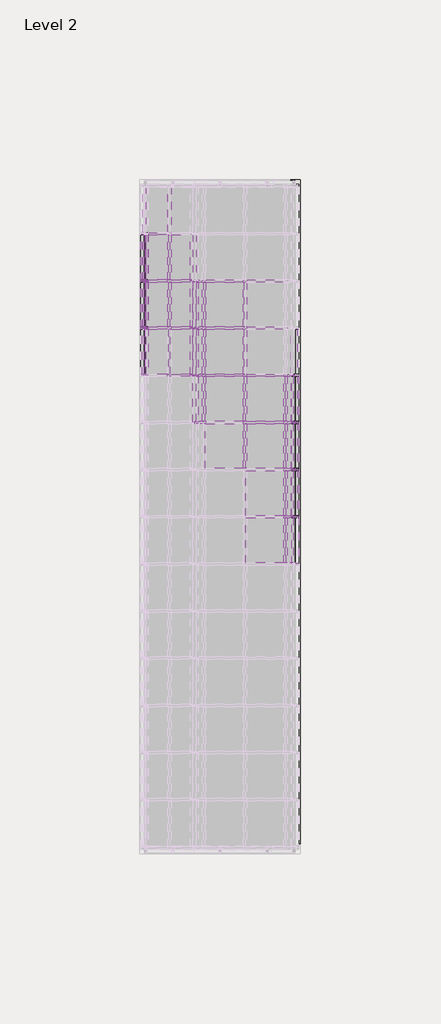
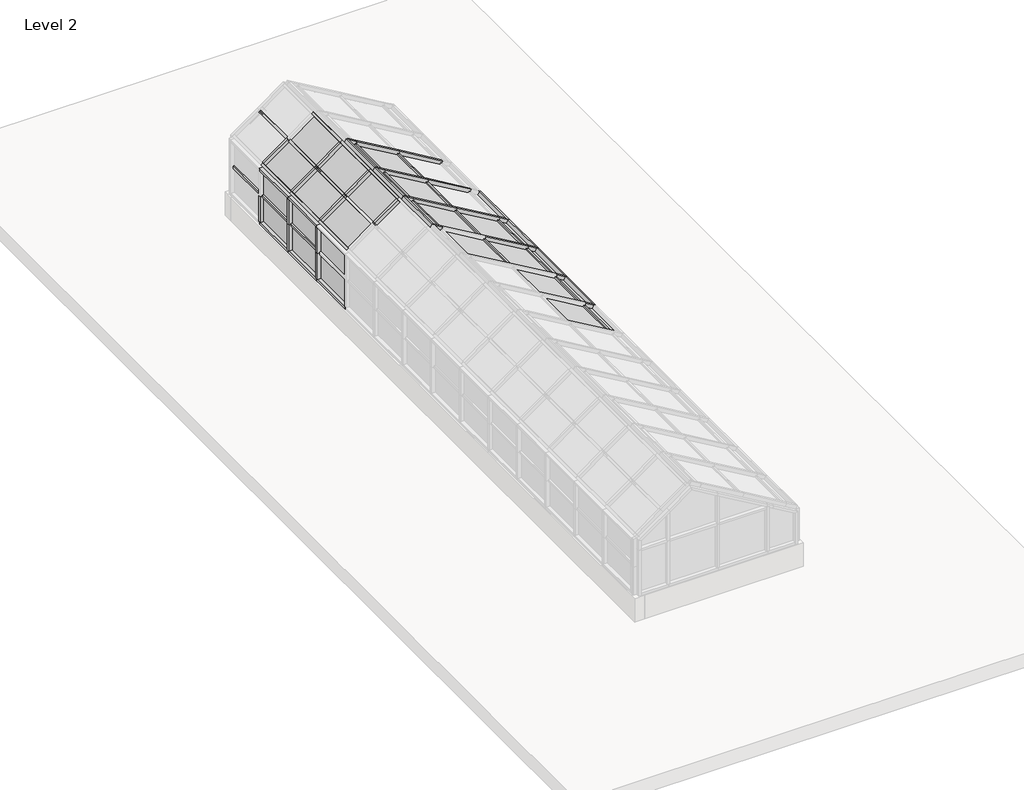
# One storey, part 4 of 5: 73 members, 31 plates, 1 wall.
"""IFC4 building model written with IfcOpenShell, lengths in millimetres."""

from ifc_helpers import new_model, si_unit, origin, place, context, project, spatial, faceted_brep, transform, mapped, element, save
from components import rectangular_mullion_50mm_x_150mm_bbc1c4ea, rectangular_mullion_50mm_x_150mm_eeb88b28, rectangular_mullion_50mm_x_150mm_a3f7cd42, rectangular_mullion_50mm_x_150mm_b93c35cb, rectangular_mullion_50mm_x_150mm_5b0837ce, rectangular_mullion_50mm_x_150mm_ae680e05, rectangular_mullion_50mm_x_65mm_20714c67, rectangular_mullion_50mm_x_65mm_31c1307f, system_panel_glazed_870feb4d, system_panel_glazed_ce9ce1f6, system_panel_glazed_b73f3a15, system_panel_glazed_e5572be6, system_panel_glazed_8ed7f146

model = new_model("IFC4")

# Units and contexts
model_context = context("Model", 3, world=origin())
ifc_project = project(units=[si_unit("LENGTHUNIT", "METRE", prefix="MILLI")], contexts=[model_context])

# Site, building, storey
site = spatial("IfcSite", under=ifc_project)
building = spatial("IfcBuilding", under=site)
storey = spatial("IfcBuildingStorey", under=building, Name="Level 2", Elevation=4000.0)

# Members
placement = place(None, origin())
rectangular_mullion_50mm_x_150mm_shape = rectangular_mullion_50mm_x_150mm_bbc1c4ea(model_context)
element("IfcMember", 1, ObjectType="Rectangular Mullion : 50mm x 150mm", at=placement, inside=storey, context=model_context, shape_type="MappedRepresentation", body=[
    mapped(rectangular_mullion_50mm_x_150mm_shape, transform((3425.8229716, 2583.816466, 6125.9168295), x_axis=(0.0, -1.0, 0.0), y_axis=(0.5073040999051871, 0.0, 0.861767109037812), z_axis=(-0.861767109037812, 0.0, 0.5073040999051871))),
])
element("IfcMember", 2, ObjectType="Rectangular Mullion : 50mm x 150mm", at=placement, inside=storey, context=model_context, shape_type="MappedRepresentation", body=[
    mapped(rectangular_mullion_50mm_x_150mm_shape, transform((2564.0558626, 3583.816466, 6633.2209294), x_axis=(0.0, -1.0, 0.0), y_axis=(0.5073040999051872, 0.0, 0.8617671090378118), z_axis=(-0.8617671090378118, 0.0, 0.5073040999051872))),
])
element("IfcMember", 3, ObjectType="Rectangular Mullion : 50mm x 150mm", at=placement, inside=storey, context=model_context, shape_type="MappedRepresentation", body=[
    mapped(rectangular_mullion_50mm_x_150mm_shape, transform((3425.8229716, 3583.816466, 6125.9168295), x_axis=(0.0, -1.0, 0.0), y_axis=(0.507304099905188, 0.0, 0.8617671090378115), z_axis=(-0.8617671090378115, 0.0, 0.507304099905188))),
])
element("IfcMember", 4, ObjectType="Rectangular Mullion : 50mm x 150mm", at=placement, inside=storey, context=model_context, shape_type="MappedRepresentation", body=[
    mapped(rectangular_mullion_50mm_x_150mm_shape, transform((2564.0558626, 4583.816466, 6633.2209294), x_axis=(0.0, -1.0, 0.0), y_axis=(0.507304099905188, 0.0, 0.8617671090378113), z_axis=(-0.8617671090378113, 0.0, 0.507304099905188))),
])
element("IfcMember", 5, ObjectType="Rectangular Mullion : 50mm x 150mm", at=placement, inside=storey, context=model_context, shape_type="MappedRepresentation", body=[
    mapped(rectangular_mullion_50mm_x_150mm_shape, transform((3425.8229716, 4583.816466, 6125.9168295), x_axis=(0.0, -1.0, 0.0), y_axis=(0.5073040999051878, 0.0, 0.8617671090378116), z_axis=(-0.8617671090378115, 0.0, 0.5073040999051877))),
])
element("IfcMember", 6, ObjectType="Rectangular Mullion : 50mm x 150mm", at=placement, inside=storey, context=model_context, shape_type="MappedRepresentation", body=[
    mapped(rectangular_mullion_50mm_x_150mm_shape, transform((2564.0558626, 5583.816466, 6633.2209294), x_axis=(0.0, -1.0, 0.0), y_axis=(0.5073040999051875, 0.0, 0.8617671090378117), z_axis=(-0.8617671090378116, 0.0, 0.5073040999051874))),
])
element("IfcMember", 7, ObjectType="Rectangular Mullion : 50mm x 150mm", at=placement, inside=storey, context=model_context, shape_type="MappedRepresentation", body=[
    mapped(rectangular_mullion_50mm_x_150mm_shape, transform((3425.8229716, 5583.816466, 6125.9168295), x_axis=(0.0, -1.0, 0.0), y_axis=(0.5073040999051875, 0.0, 0.8617671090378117), z_axis=(-0.8617671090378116, 0.0, 0.5073040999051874))),
])
rectangular_mullion_50mm_x_150mm_2_shape = rectangular_mullion_50mm_x_150mm_eeb88b28(model_context)
element("IfcMember", 8, ObjectType="Rectangular Mullion : 50mm x 150mm", at=placement, inside=storey, context=model_context, shape_type="MappedRepresentation", body=[
    mapped(rectangular_mullion_50mm_x_150mm_2_shape, transform((1296.0159363, 6583.816466, 5995.9168295), x_axis=(-0.8125956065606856, 0.0, -0.5828279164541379), y_axis=(-0.5828279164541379, 0.0, 0.8125956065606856), z_axis=(0.0, 1.0, 0.0))),
])
element("IfcMember", 9, ObjectType="Rectangular Mullion : 50mm x 150mm", at=placement, inside=storey, context=model_context, shape_type="MappedRepresentation", body=[
    mapped(rectangular_mullion_50mm_x_150mm_2_shape, transform((1296.0159363, 5583.816466, 5995.9168295), x_axis=(-0.8125956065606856, 0.0, -0.5828279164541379), y_axis=(-0.5828279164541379, 0.0, 0.8125956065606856), z_axis=(0.0, 1.0, 0.0))),
])
element("IfcMember", 10, ObjectType="Rectangular Mullion : 50mm x 150mm", at=placement, inside=storey, context=model_context, shape_type="MappedRepresentation", body=[
    mapped(rectangular_mullion_50mm_x_150mm_2_shape, transform((1296.0159363, 4583.816466, 5995.9168295), x_axis=(-0.8125956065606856, 0.0, -0.5828279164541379), y_axis=(-0.5828279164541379, 0.0, 0.8125956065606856), z_axis=(0.0, 1.0, 0.0))),
])
element("IfcMember", 11, ObjectType="Rectangular Mullion : 50mm x 150mm", at=placement, inside=storey, context=model_context, shape_type="MappedRepresentation", body=[
    mapped(rectangular_mullion_50mm_x_150mm_2_shape, transform((1296.0159363, 6583.816466, 4800.0), x_axis=(0.0, 0.0, -1.0), y_axis=(-1.0, 0.0, 0.0), z_axis=(0.0, 1.0, 0.0))),
])
element("IfcMember", 12, ObjectType="Rectangular Mullion : 50mm x 150mm", at=placement, inside=storey, context=model_context, shape_type="MappedRepresentation", body=[
    mapped(rectangular_mullion_50mm_x_150mm_2_shape, transform((1296.0159363, 4583.816466, 4800.0), x_axis=(0.0, 0.0, -1.0), y_axis=(-1.0, 0.0, 0.0), z_axis=(0.0, 1.0, 0.0))),
])
element("IfcMember", 13, ObjectType="Rectangular Mullion : 50mm x 150mm", at=placement, inside=storey, context=model_context, shape_type="MappedRepresentation", body=[
    mapped(rectangular_mullion_50mm_x_150mm_2_shape, transform((1296.0159363, 5583.816466, 4800.0), x_axis=(0.0, 0.0, -1.0), y_axis=(-1.0, 0.0, 0.0), z_axis=(0.0, 1.0, 0.0))),
])
element("IfcMember", 14, ObjectType="Rectangular Mullion : 50mm x 150mm", at=placement, inside=storey, context=model_context, shape_type="MappedRepresentation", body=[
    mapped(rectangular_mullion_50mm_x_150mm_2_shape, transform((4496.0159363, 3583.816466, 5495.9168295), x_axis=(0.8617671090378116, 0.0, -0.5073040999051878), y_axis=(0.5073040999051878, 0.0, 0.8617671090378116), z_axis=(0.0, -1.0, 0.0))),
])
element("IfcMember", 15, ObjectType="Rectangular Mullion : 50mm x 150mm", at=placement, inside=storey, context=model_context, shape_type="MappedRepresentation", body=[
    mapped(rectangular_mullion_50mm_x_150mm_2_shape, transform((4496.0159363, 2583.816466, 5495.9168295), x_axis=(0.8617671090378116, 0.0, -0.5073040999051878), y_axis=(0.5073040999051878, 0.0, 0.8617671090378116), z_axis=(0.0, -1.0, 0.0))),
])
element("IfcMember", 16, ObjectType="Rectangular Mullion : 50mm x 150mm", at=placement, inside=storey, context=model_context, shape_type="MappedRepresentation", body=[
    mapped(rectangular_mullion_50mm_x_150mm_2_shape, transform((4496.0159363, 1583.816466, 5495.9168295), x_axis=(0.8617671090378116, 0.0, -0.5073040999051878), y_axis=(0.5073040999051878, 0.0, 0.8617671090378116), z_axis=(0.0, -1.0, 0.0))),
])
element("IfcMember", 17, ObjectType="Rectangular Mullion : 50mm x 150mm", at=placement, inside=storey, context=model_context, shape_type="MappedRepresentation", body=[
    mapped(rectangular_mullion_50mm_x_150mm_2_shape, transform((4496.0159363, 583.816466, 5495.9168295), x_axis=(0.8617671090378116, 0.0, -0.5073040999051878), y_axis=(0.5073040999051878, 0.0, 0.8617671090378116), z_axis=(0.0, -1.0, 0.0))),
])
element("IfcMember", 18, ObjectType="Rectangular Mullion : 50mm x 150mm", at=placement, inside=storey, context=model_context, shape_type="MappedRepresentation", body=[
    mapped(rectangular_mullion_50mm_x_150mm_2_shape, transform((4496.0159363, 3583.816466, 4800.0), x_axis=(0.0, 0.0, -1.0), y_axis=(1.0, 0.0, 0.0), z_axis=(0.0, -1.0, 0.0))),
])
element("IfcMember", 19, ObjectType="Rectangular Mullion : 50mm x 150mm", at=placement, inside=storey, context=model_context, shape_type="MappedRepresentation", body=[
    mapped(rectangular_mullion_50mm_x_150mm_2_shape, transform((4496.0159363, 2583.816466, 4800.0), x_axis=(0.0, 0.0, -1.0), y_axis=(1.0, 0.0, 0.0), z_axis=(0.0, -1.0, 0.0))),
])
element("IfcMember", 20, ObjectType="Rectangular Mullion : 50mm x 150mm", at=placement, inside=storey, context=model_context, shape_type="MappedRepresentation", body=[
    mapped(rectangular_mullion_50mm_x_150mm_2_shape, transform((4496.0159363, 1583.816466, 4800.0), x_axis=(0.0, 0.0, -1.0), y_axis=(1.0, 0.0, 0.0), z_axis=(0.0, -1.0, 0.0))),
])
element("IfcMember", 21, ObjectType="Rectangular Mullion : 50mm x 150mm", at=placement, inside=storey, context=model_context, shape_type="MappedRepresentation", body=[
    mapped(rectangular_mullion_50mm_x_150mm_2_shape, transform((4496.0159363, 583.816466, 4800.0), x_axis=(0.0, 0.0, -1.0), y_axis=(1.0, 0.0, 0.0), z_axis=(0.0, -1.0, 0.0))),
])
element("IfcMember", 22, ObjectType="Rectangular Mullion : 50mm x 150mm", at=placement, inside=storey, context=model_context, shape_type="MappedRepresentation", body=[
    mapped(rectangular_mullion_50mm_x_150mm_2_shape, transform((2355.6300069, 5583.816466, 6755.9168295), x_axis=(0.8125956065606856, 0.0, 0.5828279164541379), y_axis=(-0.5828279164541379, 0.0, 0.8125956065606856), z_axis=(0.0, -1.0, 0.0))),
])
element("IfcMember", 23, ObjectType="Rectangular Mullion : 50mm x 150mm", at=placement, inside=storey, context=model_context, shape_type="MappedRepresentation", body=[
    mapped(rectangular_mullion_50mm_x_150mm_2_shape, transform((2355.6300069, 4583.816466, 6755.9168295), x_axis=(0.8125956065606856, 0.0, 0.5828279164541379), y_axis=(-0.5828279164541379, 0.0, 0.8125956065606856), z_axis=(0.0, -1.0, 0.0))),
])
element("IfcMember", 24, ObjectType="Rectangular Mullion : 50mm x 150mm", at=placement, inside=storey, context=model_context, shape_type="MappedRepresentation", body=[
    mapped(rectangular_mullion_50mm_x_150mm_2_shape, transform((2355.6300069, 3583.816466, 6755.9168295), x_axis=(0.8125956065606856, 0.0, 0.5828279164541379), y_axis=(-0.5828279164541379, 0.0, 0.8125956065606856), z_axis=(0.0, -1.0, 0.0))),
])
element("IfcMember", 25, ObjectType="Rectangular Mullion : 50mm x 150mm", at=placement, inside=storey, context=model_context, shape_type="MappedRepresentation", body=[
    mapped(rectangular_mullion_50mm_x_150mm_2_shape, transform((1296.0159363, 4583.816466, 5995.9168295), x_axis=(0.0, 0.0, 1.0), y_axis=(-1.0, 0.0, 0.0), z_axis=(0.0, -1.0, 0.0))),
])
element("IfcMember", 26, ObjectType="Rectangular Mullion : 50mm x 150mm", at=placement, inside=storey, context=model_context, shape_type="MappedRepresentation", body=[
    mapped(rectangular_mullion_50mm_x_150mm_2_shape, transform((1296.0159363, 5583.816466, 5995.9168295), x_axis=(0.0, 0.0, 1.0), y_axis=(-1.0, 0.0, 0.0), z_axis=(0.0, -1.0, 0.0))),
])
element("IfcMember", 27, ObjectType="Rectangular Mullion : 50mm x 150mm", at=placement, inside=storey, context=model_context, shape_type="MappedRepresentation", body=[
    mapped(rectangular_mullion_50mm_x_150mm_2_shape, transform((2355.6300069, 5583.816466, 6755.9168295), x_axis=(-0.8617671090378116, 0.0, 0.5073040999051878), y_axis=(0.5073040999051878, 0.0, 0.8617671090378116), z_axis=(0.0, 1.0, 0.0))),
])
element("IfcMember", 28, ObjectType="Rectangular Mullion : 50mm x 150mm", at=placement, inside=storey, context=model_context, shape_type="MappedRepresentation", body=[
    mapped(rectangular_mullion_50mm_x_150mm_2_shape, transform((2355.6300069, 4583.816466, 6755.9168295), x_axis=(-0.8617671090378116, 0.0, 0.5073040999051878), y_axis=(0.5073040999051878, 0.0, 0.8617671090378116), z_axis=(0.0, 1.0, 0.0))),
])
element("IfcMember", 29, ObjectType="Rectangular Mullion : 50mm x 150mm", at=placement, inside=storey, context=model_context, shape_type="MappedRepresentation", body=[
    mapped(rectangular_mullion_50mm_x_150mm_2_shape, transform((2355.6300069, 3583.816466, 6755.9168295), x_axis=(-0.8617671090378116, 0.0, 0.5073040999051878), y_axis=(0.5073040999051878, 0.0, 0.8617671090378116), z_axis=(0.0, 1.0, 0.0))),
])
element("IfcMember", 30, ObjectType="Rectangular Mullion : 50mm x 150mm", at=placement, inside=storey, context=model_context, shape_type="MappedRepresentation", body=[
    mapped(rectangular_mullion_50mm_x_150mm_2_shape, transform((4496.0159363, 3583.816466, 5495.9168295), x_axis=(0.0, 0.0, 1.0), y_axis=(1.0, 0.0, 0.0), z_axis=(0.0, 1.0, 0.0))),
])
element("IfcMember", 31, ObjectType="Rectangular Mullion : 50mm x 150mm", at=placement, inside=storey, context=model_context, shape_type="MappedRepresentation", body=[
    mapped(rectangular_mullion_50mm_x_150mm_2_shape, transform((4496.0159363, 583.816466, 5495.9168295), x_axis=(0.0, 0.0, 1.0), y_axis=(1.0, 0.0, 0.0), z_axis=(0.0, 1.0, 0.0))),
])
element("IfcMember", 32, ObjectType="Rectangular Mullion : 50mm x 150mm", at=placement, inside=storey, context=model_context, shape_type="MappedRepresentation", body=[
    mapped(rectangular_mullion_50mm_x_150mm_2_shape, transform((4496.0159363, 2583.816466, 5495.9168295), x_axis=(0.0, 0.0, 1.0), y_axis=(1.0, 0.0, 0.0), z_axis=(0.0, 1.0, 0.0))),
])
element("IfcMember", 33, ObjectType="Rectangular Mullion : 50mm x 150mm", at=placement, inside=storey, context=model_context, shape_type="MappedRepresentation", body=[
    mapped(rectangular_mullion_50mm_x_150mm_2_shape, transform((4496.0159363, 1583.816466, 5495.9168295), x_axis=(0.0, 0.0, 1.0), y_axis=(1.0, 0.0, 0.0), z_axis=(0.0, 1.0, 0.0))),
])
rectangular_mullion_50mm_x_150mm_3_shape = rectangular_mullion_50mm_x_150mm_a3f7cd42(model_context)
element("IfcMember", 34, ObjectType="Rectangular Mullion : 50mm x 150mm", at=placement, inside=storey, context=model_context, shape_type="MappedRepresentation", body=[
    mapped(rectangular_mullion_50mm_x_150mm_3_shape, transform((2315.0002265, 3583.816466, 6726.7754337), x_axis=(0.0, 1.0, 0.0), y_axis=(-0.5828279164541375, 0.0, 0.812595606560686), z_axis=(0.8125956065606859, 0.0, 0.5828279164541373))),
])
element("IfcMember", 35, ObjectType="Rectangular Mullion : 50mm x 150mm", at=placement, inside=storey, context=model_context, shape_type="MappedRepresentation", body=[
    mapped(rectangular_mullion_50mm_x_150mm_3_shape, transform((2315.0002265, 4583.816466, 6726.7754337), x_axis=(0.0, 1.0, 0.0), y_axis=(-0.582827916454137, 0.0, 0.8125956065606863), z_axis=(0.8125956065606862, 0.0, 0.5828279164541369))),
])
element("IfcMember", 36, ObjectType="Rectangular Mullion : 50mm x 150mm", at=placement, inside=storey, context=model_context, shape_type="MappedRepresentation", body=[
    mapped(rectangular_mullion_50mm_x_150mm_3_shape, transform((2315.0002265, 5583.816466, 6726.7754337), x_axis=(0.0, 1.0, 0.0), y_axis=(-0.5828279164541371, 0.0, 0.8125956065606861), z_axis=(0.8125956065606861, 0.0, 0.5828279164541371))),
])
element("IfcMember", 37, ObjectType="Rectangular Mullion : 50mm x 150mm", at=placement, inside=storey, context=model_context, shape_type="MappedRepresentation", body=[
    mapped(rectangular_mullion_50mm_x_150mm_3_shape, transform((1825.8229716, 6583.816466, 6375.9168295), x_axis=(0.0, 1.0, 0.0), y_axis=(-0.5828279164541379, 0.0, 0.8125956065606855), z_axis=(0.8125956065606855, 0.0, 0.5828279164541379))),
])
element("IfcMember", 38, ObjectType="Rectangular Mullion : 50mm x 150mm", at=placement, inside=storey, context=model_context, shape_type="MappedRepresentation", body=[
    mapped(rectangular_mullion_50mm_x_150mm_3_shape, transform((1825.8229716, 5583.816466, 6375.9168295), x_axis=(0.0, 1.0, 0.0), y_axis=(-0.5828279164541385, 0.0, 0.8125956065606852), z_axis=(0.8125956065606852, 0.0, 0.5828279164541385))),
])
element("IfcMember", 39, ObjectType="Rectangular Mullion : 50mm x 150mm", at=placement, inside=storey, context=model_context, shape_type="MappedRepresentation", body=[
    mapped(rectangular_mullion_50mm_x_150mm_3_shape, transform((1825.8229716, 4583.816466, 6375.9168295), x_axis=(0.0, 1.0, 0.0), y_axis=(-0.582827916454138, 0.0, 0.8125956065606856), z_axis=(0.8125956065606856, 0.0, 0.582827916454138))),
])
rectangular_mullion_50mm_x_150mm_4_shape = rectangular_mullion_50mm_x_150mm_b93c35cb(model_context)
element("IfcMember", 40, ObjectType="Rectangular Mullion : 50mm x 150mm", at=placement, inside=storey, context=model_context, shape_type="MappedRepresentation", body=[
    mapped(rectangular_mullion_50mm_x_150mm_4_shape, transform((1296.0159363, 6583.816466, 5397.9584148), x_axis=(0.0, 1.0, 0.0), y_axis=(-1.0, 0.0, 0.0), z_axis=(0.0, 0.0, 1.0))),
])
element("IfcMember", 41, ObjectType="Rectangular Mullion : 50mm x 150mm", at=placement, inside=storey, context=model_context, shape_type="MappedRepresentation", body=[
    mapped(rectangular_mullion_50mm_x_150mm_4_shape, transform((1296.0159363, 5583.816466, 5397.9584148), x_axis=(0.0, 1.0, 0.0), y_axis=(-1.0, 0.0, 0.0), z_axis=(0.0, 0.0, 1.0))),
])
element("IfcMember", 42, ObjectType="Rectangular Mullion : 50mm x 150mm", at=placement, inside=storey, context=model_context, shape_type="MappedRepresentation", body=[
    mapped(rectangular_mullion_50mm_x_150mm_4_shape, transform((1296.0159363, 4583.816466, 5397.9584148), x_axis=(0.0, 1.0, 0.0), y_axis=(-1.0, 0.0, 0.0), z_axis=(0.0, 0.0, 1.0))),
])
element("IfcMember", 43, ObjectType="Rectangular Mullion : 50mm x 150mm", at=placement, inside=storey, context=model_context, shape_type="MappedRepresentation", body=[
    mapped(rectangular_mullion_50mm_x_150mm_4_shape, transform((1296.0159363, 4583.816466, 5945.9168295), x_axis=(0.0, 1.0, 0.0), y_axis=(-1.0, 0.0, 0.0), z_axis=(0.0, 0.0, 1.0))),
])
element("IfcMember", 44, ObjectType="Rectangular Mullion : 50mm x 150mm", at=placement, inside=storey, context=model_context, shape_type="MappedRepresentation", body=[
    mapped(rectangular_mullion_50mm_x_150mm_4_shape, transform((1296.0159363, 5583.816466, 5945.9168295), x_axis=(0.0, 1.0, 0.0), y_axis=(-1.0, 0.0, 0.0), z_axis=(0.0, 0.0, 1.0))),
])
rectangular_mullion_50mm_x_150mm_5_shape = rectangular_mullion_50mm_x_150mm_5b0837ce(model_context)
element("IfcMember", 45, ObjectType="Rectangular Mullion : 50mm x 150mm", at=placement, inside=storey, context=model_context, shape_type="MappedRepresentation", body=[
    mapped(rectangular_mullion_50mm_x_150mm_5_shape, transform((2398.7183623, 2583.816466, 6730.5516245), x_axis=(0.0, -1.0, 0.0), y_axis=(0.5073040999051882, 0.0, 0.8617671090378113), z_axis=(-0.8617671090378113, 0.0, 0.5073040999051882))),
])
element("IfcMember", 46, ObjectType="Rectangular Mullion : 50mm x 150mm", at=placement, inside=storey, context=model_context, shape_type="MappedRepresentation", body=[
    mapped(rectangular_mullion_50mm_x_150mm_5_shape, transform((2398.7183623, 3583.816466, 6730.5516245), x_axis=(0.0, -1.0, 0.0), y_axis=(0.5073040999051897, 0.0, 0.8617671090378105), z_axis=(-0.8617671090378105, 0.0, 0.5073040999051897))),
])
element("IfcMember", 47, ObjectType="Rectangular Mullion : 50mm x 150mm", at=placement, inside=storey, context=model_context, shape_type="MappedRepresentation", body=[
    mapped(rectangular_mullion_50mm_x_150mm_5_shape, transform((2398.7183623, 5583.816466, 6730.5516245), x_axis=(0.0, -1.0, 0.0), y_axis=(0.5073040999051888, 0.0, 0.8617671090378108), z_axis=(-0.8617671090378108, 0.0, 0.5073040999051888))),
])
element("IfcMember", 48, ObjectType="Rectangular Mullion : 50mm x 150mm", at=placement, inside=storey, context=model_context, shape_type="MappedRepresentation", body=[
    mapped(rectangular_mullion_50mm_x_150mm_5_shape, transform((2398.7183623, 4583.816466, 6730.5516245), x_axis=(0.0, -1.0, 0.0), y_axis=(0.5073040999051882, 0.0, 0.8617671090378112), z_axis=(-0.8617671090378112, 0.0, 0.5073040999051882))),
])
element("IfcMember", 49, ObjectType="Rectangular Mullion : 50mm x 150mm", at=placement, inside=storey, context=model_context, shape_type="MappedRepresentation", body=[
    mapped(rectangular_mullion_50mm_x_150mm_5_shape, transform((4287.5900806, 583.816466, 5618.6127296), x_axis=(0.0, -1.0, 0.0), y_axis=(0.5073040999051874, 0.0, 0.8617671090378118), z_axis=(-0.8617671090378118, 0.0, 0.5073040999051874))),
])
element("IfcMember", 50, ObjectType="Rectangular Mullion : 50mm x 150mm", at=placement, inside=storey, context=model_context, shape_type="MappedRepresentation", body=[
    mapped(rectangular_mullion_50mm_x_150mm_5_shape, transform((4287.5900806, 1583.816466, 5618.6127296), x_axis=(0.0, -1.0, 0.0), y_axis=(0.5073040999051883, 0.0, 0.8617671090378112), z_axis=(-0.8617671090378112, 0.0, 0.5073040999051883))),
])
element("IfcMember", 51, ObjectType="Rectangular Mullion : 50mm x 150mm", at=placement, inside=storey, context=model_context, shape_type="MappedRepresentation", body=[
    mapped(rectangular_mullion_50mm_x_150mm_5_shape, transform((4287.5900806, 2583.816466, 5618.6127296), x_axis=(0.0, -1.0, 0.0), y_axis=(0.5073040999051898, 0.0, 0.8617671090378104), z_axis=(-0.8617671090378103, 0.0, 0.5073040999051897))),
])
element("IfcMember", 52, ObjectType="Rectangular Mullion : 50mm x 150mm", at=placement, inside=storey, context=model_context, shape_type="MappedRepresentation", body=[
    mapped(rectangular_mullion_50mm_x_150mm_5_shape, transform((4287.5900806, 3583.816466, 5618.6127296), x_axis=(0.0, -1.0, 0.0), y_axis=(0.5073040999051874, 0.0, 0.8617671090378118), z_axis=(-0.8617671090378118, 0.0, 0.5073040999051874))),
])
rectangular_mullion_50mm_x_150mm_6_shape = rectangular_mullion_50mm_x_150mm_ae680e05(model_context)
element("IfcMember", 53, ObjectType="Rectangular Mullion : 50mm x 150mm", at=placement, inside=storey, context=model_context, shape_type="MappedRepresentation", body=[
    mapped(rectangular_mullion_50mm_x_150mm_6_shape, transform((4496.0159363, 3583.816466, 5445.9168295), x_axis=(0.0, -1.0, 0.0), y_axis=(1.0, 0.0, 0.0), z_axis=(0.0, 0.0, 1.0))),
])
element("IfcMember", 54, ObjectType="Rectangular Mullion : 50mm x 150mm", at=placement, inside=storey, context=model_context, shape_type="MappedRepresentation", body=[
    mapped(rectangular_mullion_50mm_x_150mm_6_shape, transform((4496.0159363, 2583.816466, 5445.9168295), x_axis=(0.0, -1.0, 0.0), y_axis=(1.0, 0.0, 0.0), z_axis=(0.0, 0.0, 1.0))),
])
element("IfcMember", 55, ObjectType="Rectangular Mullion : 50mm x 150mm", at=placement, inside=storey, context=model_context, shape_type="MappedRepresentation", body=[
    mapped(rectangular_mullion_50mm_x_150mm_6_shape, transform((4496.0159363, 1583.816466, 5445.9168295), x_axis=(0.0, -1.0, 0.0), y_axis=(1.0, 0.0, 0.0), z_axis=(0.0, 0.0, 1.0))),
])
element("IfcMember", 56, ObjectType="Rectangular Mullion : 50mm x 150mm", at=placement, inside=storey, context=model_context, shape_type="MappedRepresentation", body=[
    mapped(rectangular_mullion_50mm_x_150mm_6_shape, transform((4496.0159363, 583.816466, 5445.9168295), x_axis=(0.0, -1.0, 0.0), y_axis=(1.0, 0.0, 0.0), z_axis=(0.0, 0.0, 1.0))),
])
rectangular_mullion_50mm_x_65mm_shape = rectangular_mullion_50mm_x_65mm_20714c67(model_context)
element("IfcMember", 57, ObjectType="Rectangular Mullion : 50mm x 65mm", at=placement, inside=storey, context=model_context, shape_type="MappedRepresentation", body=[
    mapped(rectangular_mullion_50mm_x_65mm_shape, transform((1825.8229716, 6608.816466, 6375.9168295), x_axis=(0.8125956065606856, 0.0, 0.5828279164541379), y_axis=(-0.5828279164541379, 0.0, 0.8125956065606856), z_axis=(0.0, -1.0, 0.0))),
])
element("IfcMember", 58, ObjectType="Rectangular Mullion : 50mm x 65mm", at=placement, inside=storey, context=model_context, shape_type="MappedRepresentation", body=[
    mapped(rectangular_mullion_50mm_x_65mm_shape, transform((1296.0159363, 6608.816466, 5397.9584148), x_axis=(0.0, 0.0, 1.0), y_axis=(-1.0, 0.0, 0.0), z_axis=(0.0, -1.0, 0.0))),
])
rectangular_mullion_50mm_x_65mm_2_shape = rectangular_mullion_50mm_x_65mm_31c1307f(model_context)
element("IfcMember", 59, ObjectType="Rectangular Mullion : 50mm x 65mm", at=placement, inside=storey, context=model_context, shape_type="MappedRepresentation", body=[
    mapped(rectangular_mullion_50mm_x_65mm_2_shape, transform((1825.8229716, 5608.816466, 6375.9168295), x_axis=(0.8125956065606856, 0.0, 0.5828279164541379), y_axis=(-0.5828279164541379, 0.0, 0.8125956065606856), z_axis=(0.0, -1.0, 0.0))),
])
element("IfcMember", 60, ObjectType="Rectangular Mullion : 50mm x 65mm", at=placement, inside=storey, context=model_context, shape_type="MappedRepresentation", body=[
    mapped(rectangular_mullion_50mm_x_65mm_2_shape, transform((1825.8229716, 4608.816466, 6375.9168295), x_axis=(0.8125956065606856, 0.0, 0.5828279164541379), y_axis=(-0.5828279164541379, 0.0, 0.8125956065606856), z_axis=(0.0, -1.0, 0.0))),
])
element("IfcMember", 61, ObjectType="Rectangular Mullion : 50mm x 65mm", at=placement, inside=storey, context=model_context, shape_type="MappedRepresentation", body=[
    mapped(rectangular_mullion_50mm_x_65mm_2_shape, transform((1296.0159363, 4608.816466, 5397.9584148), x_axis=(0.0, 0.0, 1.0), y_axis=(-1.0, 0.0, 0.0), z_axis=(0.0, -1.0, 0.0))),
])
element("IfcMember", 62, ObjectType="Rectangular Mullion : 50mm x 65mm", at=placement, inside=storey, context=model_context, shape_type="MappedRepresentation", body=[
    mapped(rectangular_mullion_50mm_x_65mm_2_shape, transform((1296.0159363, 5608.816466, 5397.9584148), x_axis=(0.0, 0.0, 1.0), y_axis=(-1.0, 0.0, 0.0), z_axis=(0.0, -1.0, 0.0))),
])
element("IfcMember", 63, ObjectType="Rectangular Mullion : 50mm x 65mm", at=placement, inside=storey, context=model_context, shape_type="MappedRepresentation", body=[
    mapped(rectangular_mullion_50mm_x_65mm_2_shape, transform((2564.0558626, 5558.816466, 6633.2209294), x_axis=(-0.8617671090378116, 0.0, 0.5073040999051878), y_axis=(0.5073040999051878, 0.0, 0.8617671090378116), z_axis=(0.0, 1.0, 0.0))),
])
element("IfcMember", 64, ObjectType="Rectangular Mullion : 50mm x 65mm", at=placement, inside=storey, context=model_context, shape_type="MappedRepresentation", body=[
    mapped(rectangular_mullion_50mm_x_65mm_2_shape, transform((2564.0558626, 4558.816466, 6633.2209294), x_axis=(-0.8617671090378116, 0.0, 0.5073040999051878), y_axis=(0.5073040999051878, 0.0, 0.8617671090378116), z_axis=(0.0, 1.0, 0.0))),
])
element("IfcMember", 65, ObjectType="Rectangular Mullion : 50mm x 65mm", at=placement, inside=storey, context=model_context, shape_type="MappedRepresentation", body=[
    mapped(rectangular_mullion_50mm_x_65mm_2_shape, transform((3425.8229716, 2558.816466, 6125.9168295), x_axis=(-0.8617671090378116, 0.0, 0.5073040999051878), y_axis=(0.5073040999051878, 0.0, 0.8617671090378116), z_axis=(0.0, 1.0, 0.0))),
])
element("IfcMember", 66, ObjectType="Rectangular Mullion : 50mm x 65mm", at=placement, inside=storey, context=model_context, shape_type="MappedRepresentation", body=[
    mapped(rectangular_mullion_50mm_x_65mm_2_shape, transform((3425.8229716, 4558.816466, 6125.9168295), x_axis=(-0.8617671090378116, 0.0, 0.5073040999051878), y_axis=(0.5073040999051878, 0.0, 0.8617671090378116), z_axis=(0.0, 1.0, 0.0))),
])
element("IfcMember", 67, ObjectType="Rectangular Mullion : 50mm x 65mm", at=placement, inside=storey, context=model_context, shape_type="MappedRepresentation", body=[
    mapped(rectangular_mullion_50mm_x_65mm_2_shape, transform((3425.8229716, 3558.816466, 6125.9168295), x_axis=(-0.8617671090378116, 0.0, 0.5073040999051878), y_axis=(0.5073040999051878, 0.0, 0.8617671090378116), z_axis=(0.0, 1.0, 0.0))),
])
element("IfcMember", 68, ObjectType="Rectangular Mullion : 50mm x 65mm", at=placement, inside=storey, context=model_context, shape_type="MappedRepresentation", body=[
    mapped(rectangular_mullion_50mm_x_65mm_2_shape, transform((3425.8229716, 5558.816466, 6125.9168295), x_axis=(-0.8617671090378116, 0.0, 0.5073040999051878), y_axis=(0.5073040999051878, 0.0, 0.8617671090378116), z_axis=(0.0, 1.0, 0.0))),
])
element("IfcMember", 69, ObjectType="Rectangular Mullion : 50mm x 65mm", at=placement, inside=storey, context=model_context, shape_type="MappedRepresentation", body=[
    mapped(rectangular_mullion_50mm_x_65mm_2_shape, transform((2564.0558626, 3558.816466, 6633.2209294), x_axis=(-0.8617671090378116, 0.0, 0.5073040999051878), y_axis=(0.5073040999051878, 0.0, 0.8617671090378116), z_axis=(0.0, 1.0, 0.0))),
])
element("IfcMember", 70, ObjectType="Rectangular Mullion : 50mm x 65mm", at=placement, inside=storey, context=model_context, shape_type="MappedRepresentation", body=[
    mapped(rectangular_mullion_50mm_x_65mm_2_shape, transform((4287.5900806, 3558.816466, 5618.6127296), x_axis=(-0.8617671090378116, 0.0, 0.5073040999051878), y_axis=(0.5073040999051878, 0.0, 0.8617671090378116), z_axis=(0.0, 1.0, 0.0))),
])
element("IfcMember", 71, ObjectType="Rectangular Mullion : 50mm x 65mm", at=placement, inside=storey, context=model_context, shape_type="MappedRepresentation", body=[
    mapped(rectangular_mullion_50mm_x_65mm_2_shape, transform((4287.5900806, 2558.816466, 5618.6127296), x_axis=(-0.8617671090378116, 0.0, 0.5073040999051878), y_axis=(0.5073040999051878, 0.0, 0.8617671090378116), z_axis=(0.0, 1.0, 0.0))),
])
element("IfcMember", 72, ObjectType="Rectangular Mullion : 50mm x 65mm", at=placement, inside=storey, context=model_context, shape_type="MappedRepresentation", body=[
    mapped(rectangular_mullion_50mm_x_65mm_2_shape, transform((4287.5900806, 1558.816466, 5618.6127296), x_axis=(-0.8617671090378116, 0.0, 0.5073040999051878), y_axis=(0.5073040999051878, 0.0, 0.8617671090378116), z_axis=(0.0, 1.0, 0.0))),
])
element("IfcMember", 73, ObjectType="Rectangular Mullion : 50mm x 65mm", at=placement, inside=storey, context=model_context, shape_type="MappedRepresentation", body=[
    mapped(rectangular_mullion_50mm_x_65mm_2_shape, transform((4287.5900806, 558.816466, 5618.6127296), x_axis=(-0.8617671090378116, 0.0, 0.5073040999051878), y_axis=(0.5073040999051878, 0.0, 0.8617671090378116), z_axis=(0.0, 1.0, 0.0))),
])

# Plates
system_panel_glazed_shape = system_panel_glazed_870feb4d(model_context)
element("IfcPlate", 74, ObjectType="System Panel : Glazed", at=placement, inside=storey, context=model_context, shape_type="MappedRepresentation", body=[
    mapped(system_panel_glazed_shape, transform((1336.6457166, 4083.816466, 6025.0582253), x_axis=(0.0, 1.0, 0.0), y_axis=(-0.5828279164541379, 0.0, 0.8125956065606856), z_axis=(0.8125956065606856, 0.0, 0.5828279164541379))),
])
element("IfcPlate", 75, ObjectType="System Panel : Glazed", at=placement, inside=storey, context=model_context, shape_type="MappedRepresentation", body=[
    mapped(system_panel_glazed_shape, transform((1336.6457166, 5083.816466, 6025.0582253), x_axis=(0.0, 1.0, 0.0), y_axis=(-0.5828279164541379, 0.0, 0.8125956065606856), z_axis=(0.8125956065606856, 0.0, 0.5828279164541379))),
])
element("IfcPlate", 76, ObjectType="System Panel : Glazed", at=placement, inside=storey, context=model_context, shape_type="MappedRepresentation", body=[
    mapped(system_panel_glazed_shape, transform((1336.6457166, 6083.816466, 6025.0582253), x_axis=(0.0, 1.0, 0.0), y_axis=(-0.5828279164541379, 0.0, 0.8125956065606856), z_axis=(0.8125956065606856, 0.0, 0.5828279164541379))),
])
element("IfcPlate", 77, ObjectType="System Panel : Glazed", at=placement, inside=storey, context=model_context, shape_type="MappedRepresentation", body=[
    mapped(system_panel_glazed_shape, transform((1846.1378618, 4083.816466, 6390.4875274), x_axis=(0.0, 1.0, 0.0), y_axis=(-0.5828279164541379, 0.0, 0.8125956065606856), z_axis=(0.8125956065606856, 0.0, 0.5828279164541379))),
])
element("IfcPlate", 78, ObjectType="System Panel : Glazed", at=placement, inside=storey, context=model_context, shape_type="MappedRepresentation", body=[
    mapped(system_panel_glazed_shape, transform((1846.1378618, 5083.816466, 6390.4875274), x_axis=(0.0, 1.0, 0.0), y_axis=(-0.5828279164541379, 0.0, 0.8125956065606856), z_axis=(0.8125956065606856, 0.0, 0.5828279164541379))),
])
element("IfcPlate", 79, ObjectType="System Panel : Glazed", at=placement, inside=storey, context=model_context, shape_type="MappedRepresentation", body=[
    mapped(system_panel_glazed_shape, transform((1846.1378618, 6083.816466, 6390.4875274), x_axis=(0.0, 1.0, 0.0), y_axis=(-0.5828279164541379, 0.0, 0.8125956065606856), z_axis=(0.8125956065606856, 0.0, 0.5828279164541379))),
])
system_panel_glazed_2_shape = system_panel_glazed_ce9ce1f6(model_context)
element("IfcPlate", 80, ObjectType="System Panel : Glazed", at=placement, inside=storey, context=model_context, shape_type="MappedRepresentation", body=[
    mapped(system_panel_glazed_2_shape, transform((1296.0159363, 4083.816466, 4850.0), x_axis=(0.0, 1.0, 0.0), y_axis=(-1.0, 0.0, 0.0), z_axis=(0.0, 0.0, 1.0))),
])
element("IfcPlate", 81, ObjectType="System Panel : Glazed", at=placement, inside=storey, context=model_context, shape_type="MappedRepresentation", body=[
    mapped(system_panel_glazed_2_shape, transform((1296.0159363, 5083.816466, 4850.0), x_axis=(0.0, 1.0, 0.0), y_axis=(-1.0, 0.0, 0.0), z_axis=(0.0, 0.0, 1.0))),
])
element("IfcPlate", 82, ObjectType="System Panel : Glazed", at=placement, inside=storey, context=model_context, shape_type="MappedRepresentation", body=[
    mapped(system_panel_glazed_2_shape, transform((1296.0159363, 6083.816466, 4850.0), x_axis=(0.0, 1.0, 0.0), y_axis=(-1.0, 0.0, 0.0), z_axis=(0.0, 0.0, 1.0))),
])
element("IfcPlate", 83, ObjectType="System Panel : Glazed", at=placement, inside=storey, context=model_context, shape_type="MappedRepresentation", body=[
    mapped(system_panel_glazed_2_shape, transform((1296.0159363, 4083.816466, 5422.9584148), x_axis=(0.0, 1.0, 0.0), y_axis=(-1.0, 0.0, 0.0), z_axis=(0.0, 0.0, 1.0))),
])
element("IfcPlate", 84, ObjectType="System Panel : Glazed", at=placement, inside=storey, context=model_context, shape_type="MappedRepresentation", body=[
    mapped(system_panel_glazed_2_shape, transform((1296.0159363, 5083.816466, 5422.9584148), x_axis=(0.0, 1.0, 0.0), y_axis=(-1.0, 0.0, 0.0), z_axis=(0.0, 0.0, 1.0))),
])
element("IfcPlate", 85, ObjectType="System Panel : Glazed", at=placement, inside=storey, context=model_context, shape_type="MappedRepresentation", body=[
    mapped(system_panel_glazed_2_shape, transform((1296.0159363, 6083.816466, 5422.9584148), x_axis=(0.0, 1.0, 0.0), y_axis=(-1.0, 0.0, 0.0), z_axis=(0.0, 0.0, 1.0))),
])
system_panel_glazed_3_shape = system_panel_glazed_b73f3a15(model_context)
element("IfcPlate", 86, ObjectType="System Panel : Glazed", at=placement, inside=storey, context=model_context, shape_type="MappedRepresentation", body=[
    mapped(system_panel_glazed_3_shape, transform((4452.9275809, 83.816466, 5521.2820345), x_axis=(0.0, -1.0, 0.0), y_axis=(0.5073040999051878, 0.0, 0.8617671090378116), z_axis=(-0.8617671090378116, 0.0, 0.5073040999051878))),
])
element("IfcPlate", 87, ObjectType="System Panel : Glazed", at=placement, inside=storey, context=model_context, shape_type="MappedRepresentation", body=[
    mapped(system_panel_glazed_3_shape, transform((4452.9275809, 1083.816466, 5521.2820345), x_axis=(0.0, -1.0, 0.0), y_axis=(0.5073040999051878, 0.0, 0.8617671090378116), z_axis=(-0.8617671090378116, 0.0, 0.5073040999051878))),
])
element("IfcPlate", 88, ObjectType="System Panel : Glazed", at=placement, inside=storey, context=model_context, shape_type="MappedRepresentation", body=[
    mapped(system_panel_glazed_3_shape, transform((4452.9275809, 2083.816466, 5521.2820345), x_axis=(0.0, -1.0, 0.0), y_axis=(0.5073040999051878, 0.0, 0.8617671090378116), z_axis=(-0.8617671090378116, 0.0, 0.5073040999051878))),
])
element("IfcPlate", 89, ObjectType="System Panel : Glazed", at=placement, inside=storey, context=model_context, shape_type="MappedRepresentation", body=[
    mapped(system_panel_glazed_3_shape, transform((4452.9275809, 3083.816466, 5521.2820345), x_axis=(0.0, -1.0, 0.0), y_axis=(0.5073040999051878, 0.0, 0.8617671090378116), z_axis=(-0.8617671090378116, 0.0, 0.5073040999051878))),
])
element("IfcPlate", 90, ObjectType="System Panel : Glazed", at=placement, inside=storey, context=model_context, shape_type="MappedRepresentation", body=[
    mapped(system_panel_glazed_3_shape, transform((2542.5116848, 5083.816466, 6645.9035319), x_axis=(0.0, -1.0, 0.0), y_axis=(0.5073040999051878, 0.0, 0.8617671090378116), z_axis=(-0.8617671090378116, 0.0, 0.5073040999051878))),
])
element("IfcPlate", 91, ObjectType="System Panel : Glazed", at=placement, inside=storey, context=model_context, shape_type="MappedRepresentation", body=[
    mapped(system_panel_glazed_3_shape, transform((2542.5116848, 4083.816466, 6645.9035319), x_axis=(0.0, -1.0, 0.0), y_axis=(0.5073040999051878, 0.0, 0.8617671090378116), z_axis=(-0.8617671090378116, 0.0, 0.5073040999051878))),
])
element("IfcPlate", 92, ObjectType="System Panel : Glazed", at=placement, inside=storey, context=model_context, shape_type="MappedRepresentation", body=[
    mapped(system_panel_glazed_3_shape, transform((2542.5116848, 3083.816466, 6645.9035319), x_axis=(0.0, -1.0, 0.0), y_axis=(0.5073040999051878, 0.0, 0.8617671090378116), z_axis=(-0.8617671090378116, 0.0, 0.5073040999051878))),
])
system_panel_glazed_4_shape = system_panel_glazed_e5572be6(model_context)
element("IfcPlate", 93, ObjectType="System Panel : Glazed", at=placement, inside=storey, context=model_context, shape_type="MappedRepresentation", body=[
    mapped(system_panel_glazed_4_shape, transform((3404.2787939, 5083.816466, 6138.599432), x_axis=(0.0, -1.0, 0.0), y_axis=(0.5073040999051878, 0.0, 0.8617671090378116), z_axis=(-0.8617671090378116, 0.0, 0.5073040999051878))),
])
element("IfcPlate", 94, ObjectType="System Panel : Glazed", at=placement, inside=storey, context=model_context, shape_type="MappedRepresentation", body=[
    mapped(system_panel_glazed_4_shape, transform((3404.2787939, 4083.816466, 6138.599432), x_axis=(0.0, -1.0, 0.0), y_axis=(0.5073040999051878, 0.0, 0.8617671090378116), z_axis=(-0.8617671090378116, 0.0, 0.5073040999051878))),
])
element("IfcPlate", 95, ObjectType="System Panel : Glazed", at=placement, inside=storey, context=model_context, shape_type="MappedRepresentation", body=[
    mapped(system_panel_glazed_4_shape, transform((3404.2787939, 3083.816466, 6138.599432), x_axis=(0.0, -1.0, 0.0), y_axis=(0.5073040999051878, 0.0, 0.8617671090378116), z_axis=(-0.8617671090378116, 0.0, 0.5073040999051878))),
])
element("IfcPlate", 96, ObjectType="System Panel : Glazed", at=placement, inside=storey, context=model_context, shape_type="MappedRepresentation", body=[
    mapped(system_panel_glazed_4_shape, transform((3404.2787939, 2083.816466, 6138.599432), x_axis=(0.0, -1.0, 0.0), y_axis=(0.5073040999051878, 0.0, 0.8617671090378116), z_axis=(-0.8617671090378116, 0.0, 0.5073040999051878))),
])
element("IfcPlate", 97, ObjectType="System Panel : Glazed", at=placement, inside=storey, context=model_context, shape_type="MappedRepresentation", body=[
    mapped(system_panel_glazed_4_shape, transform((4266.0459029, 3083.816466, 5631.2953321), x_axis=(0.0, -1.0, 0.0), y_axis=(0.5073040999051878, 0.0, 0.8617671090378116), z_axis=(-0.8617671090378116, 0.0, 0.5073040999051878))),
])
element("IfcPlate", 98, ObjectType="System Panel : Glazed", at=placement, inside=storey, context=model_context, shape_type="MappedRepresentation", body=[
    mapped(system_panel_glazed_4_shape, transform((4266.0459029, 2083.816466, 5631.2953321), x_axis=(0.0, -1.0, 0.0), y_axis=(0.5073040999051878, 0.0, 0.8617671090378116), z_axis=(-0.8617671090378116, 0.0, 0.5073040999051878))),
])
element("IfcPlate", 99, ObjectType="System Panel : Glazed", at=placement, inside=storey, context=model_context, shape_type="MappedRepresentation", body=[
    mapped(system_panel_glazed_4_shape, transform((4266.0459029, 1083.816466, 5631.2953321), x_axis=(0.0, -1.0, 0.0), y_axis=(0.5073040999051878, 0.0, 0.8617671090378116), z_axis=(-0.8617671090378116, 0.0, 0.5073040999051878))),
])
element("IfcPlate", 100, ObjectType="System Panel : Glazed", at=placement, inside=storey, context=model_context, shape_type="MappedRepresentation", body=[
    mapped(system_panel_glazed_4_shape, transform((4266.0459029, 83.816466, 5631.2953321), x_axis=(0.0, -1.0, 0.0), y_axis=(0.5073040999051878, 0.0, 0.8617671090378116), z_axis=(-0.8617671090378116, 0.0, 0.5073040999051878))),
])
system_panel_glazed_5_shape = system_panel_glazed_8ed7f146(model_context)
element("IfcPlate", 101, ObjectType="System Panel : Glazed", at=placement, inside=storey, context=model_context, shape_type="MappedRepresentation", body=[
    mapped(system_panel_glazed_5_shape, transform((4496.0159363, 83.816466, 4850.0), x_axis=(0.0, -1.0, 0.0), y_axis=(1.0, 0.0, 0.0), z_axis=(0.0, 0.0, 1.0))),
])
element("IfcPlate", 102, ObjectType="System Panel : Glazed", at=placement, inside=storey, context=model_context, shape_type="MappedRepresentation", body=[
    mapped(system_panel_glazed_5_shape, transform((4496.0159363, 1083.816466, 4850.0), x_axis=(0.0, -1.0, 0.0), y_axis=(1.0, 0.0, 0.0), z_axis=(0.0, 0.0, 1.0))),
])
element("IfcPlate", 103, ObjectType="System Panel : Glazed", at=placement, inside=storey, context=model_context, shape_type="MappedRepresentation", body=[
    mapped(system_panel_glazed_5_shape, transform((4496.0159363, 2083.816466, 4850.0), x_axis=(0.0, -1.0, 0.0), y_axis=(1.0, 0.0, 0.0), z_axis=(0.0, 0.0, 1.0))),
])
element("IfcPlate", 104, ObjectType="System Panel : Glazed", at=placement, inside=storey, context=model_context, shape_type="MappedRepresentation", body=[
    mapped(system_panel_glazed_5_shape, transform((4496.0159363, 3083.816466, 4850.0), x_axis=(0.0, -1.0, 0.0), y_axis=(1.0, 0.0, 0.0), z_axis=(0.0, 0.0, 1.0))),
])

# Wall
element("IfcWall", 105, ObjectType="Generic - 200mm", at=placement, inside=storey, context=model_context, shape_type="Brep", body=[
    faceted_brep([(4396.0159363, 7733.816466, 4000.0), (4396.0159363, 7533.816466, 4000.0), (4396.0159363, -6366.183534, 4000.0), (4396.0159363, -6366.183534, 4300.0), (4396.0159363, -6366.183534, 4800.0), (4396.0159363, 7533.816466, 4800.0), (4396.0159363, 7733.816466, 4800.0), (4396.0159363, 7733.816466, 4300.0), (4596.0159363, -6366.183534, 4000.0), (4596.0159363, 7733.816466, 4000.0), (4596.0159363, 7733.816466, 4300.0), (4596.0159363, 7733.816466, 4800.0), (4596.0159363, -6366.183534, 4800.0), (4596.0159363, -6366.183534, 4300.0)], [[[0, 1, 2, 3, 4, 5, 6, 7]], [[8, 9, 10, 11, 12, 13]], [[2, 1, 0, 9, 8]], [[6, 5, 4, 12, 11]], [[6, 11, 10, 9, 0, 7]], [[2, 8, 13, 12, 4, 3]]]),
])

save(model, "model.ifc")
